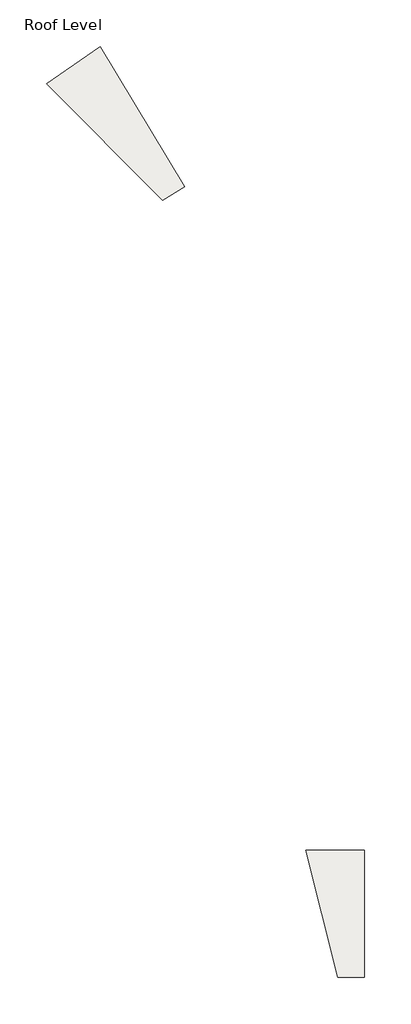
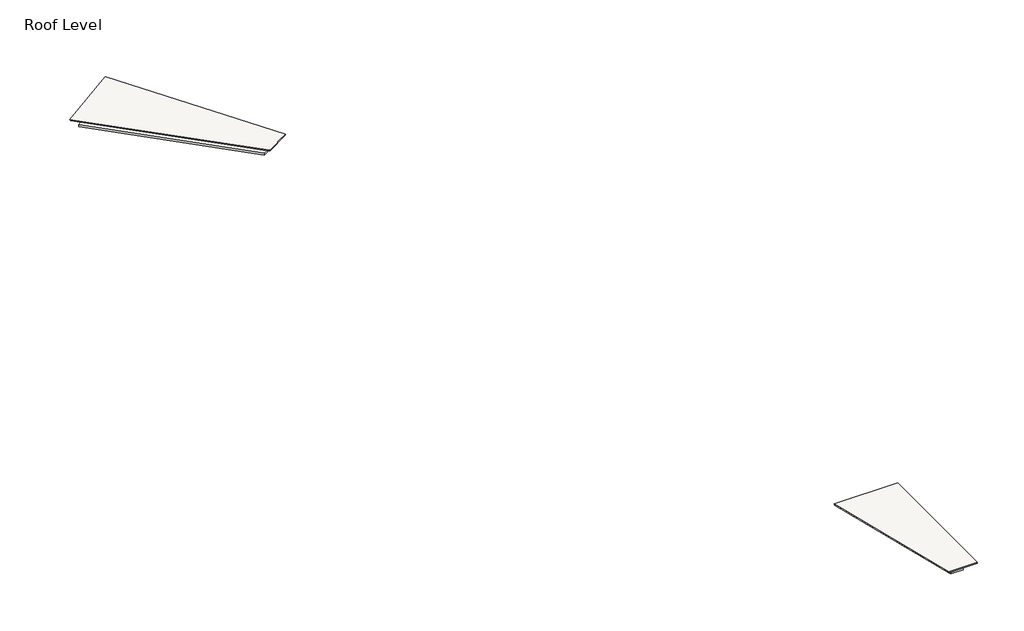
# One storey, incomplete: 2 coverings, 2 light fixtures, 2 roofs.
"""IFC4 building model written with IfcOpenShell, lengths in millimetres."""

from ifc_helpers import new_model, si_unit, point, frame, frame_2d, origin, place, context, project, spatial, polyline, circle_curve, trimmed, segment, composite_curve, outline, extrude, faceted_brep, transform, mapped, element, save
from components import m_downlight_recessed_can_152mm_incandescent_120v_aa052045

model = new_model("IFC4")

# Units and contexts
model_context = context("Model", 3, world=origin())
ifc_project = project(units=[si_unit("LENGTHUNIT", "METRE", prefix="MILLI")], contexts=[model_context])

# Site, building, storey
site = spatial("IfcSite", under=ifc_project)
building = spatial("IfcBuilding", under=site)
storey = spatial("IfcBuildingStorey", under=building, Name="Roof Level", Elevation=10500.0)

# Coverings
placement = place(None, origin())
element("IfcCovering", 1, ObjectType="Plain", at=placement, inside=storey, context=model_context, shape_type="SweptSolid", body=[
    extrude(outline(polyline([(-1577.9416851, 9853.3394684), (-3423.4636696, 11698.8614528), (-2738.9745485, 12171.3453418), (-1407.6552201, 9955.6578992), (-1577.9416851, 9853.3394684)]), holes=[composite_curve([segment(trimmed(circle_curve(frame_2d((-2459.4464576, 11112.4831296)), 75.0), [point((-2534.4464576, 11112.4831296))], [point((-2384.4464576, 11112.4831296))], True, "CARTESIAN"), True, "CONTINUOUS"), segment(trimmed(circle_curve(frame_2d((-2459.4464576, 11112.4831296)), 75.0), [point((-2384.4464576, 11112.4831296))], [point((-2534.4464576, 11112.4831296))], True, "CARTESIAN"), True, "CONTINUOUS")], self_intersect=False)]), frame((0.0, 0.0, 9160.0), z_axis=(0.0, 0.0, 1.0), x_axis=(1.0, 0.0, 0.0)), (0.0, 0.0, 1.0), 30.0),
])
element("IfcCovering", 2, ObjectType="Plain", at=placement, inside=storey, context=model_context, shape_type="SweptSolid", body=[
    extrude(outline(polyline([(1514.163403, -3469.4389803), (1023.1019357, -1499.8990101), (1712.8252801, -1499.8990101), (1712.8252801, -3469.4389803), (1514.163403, -3469.4389803)]), holes=[composite_curve([segment(trimmed(circle_curve(frame_2d((1510.6584713, -2370.399005)), 75.0), [point((1435.6584713, -2370.399005))], [point((1585.6584713, -2370.399005))], True, "CARTESIAN"), True, "CONTINUOUS"), segment(trimmed(circle_curve(frame_2d((1510.6584713, -2370.399005)), 75.0), [point((1585.6584713, -2370.399005))], [point((1435.6584713, -2370.399005))], True, "CARTESIAN"), True, "CONTINUOUS")], self_intersect=False)]), frame((0.0, 0.0, 9195.0), z_axis=(0.0, 0.0, 1.0), x_axis=(1.0, 0.0, 0.0)), (0.0, 0.0, 1.0), 30.0),
])

# Light fixtures
m_downlight_recessed_can_152mm_incandescent_120v_shape = m_downlight_recessed_can_152mm_incandescent_120v_aa052045(model_context)
element("IfcLightFixture", 3, ObjectType="M_Downlight - Recessed Can : 152mm Incandescent - 120V", at=placement, inside=storey, context=model_context, shape_type="MappedRepresentation", body=[
    mapped(m_downlight_recessed_can_152mm_incandescent_120v_shape, transform((-2459.4464576, 11112.4831296, 6645.4), x_axis=(1.0, 0.0, 0.0), y_axis=(0.0, 1.0, 0.0), z_axis=(0.0, 0.0, 1.0))),
])
element("IfcLightFixture", 4, ObjectType="M_Downlight - Recessed Can : 152mm Incandescent - 120V", at=placement, inside=storey, context=model_context, shape_type="MappedRepresentation", body=[
    mapped(m_downlight_recessed_can_152mm_incandescent_120v_shape, transform((1510.6584713, -2370.399005, 6680.4), x_axis=(1.0, 0.0, 0.0), y_axis=(0.0, 1.0, 0.0), z_axis=(0.0, 0.0, 1.0))),
])

# Roofs
element("IfcRoof", 5, ObjectType="Roof_Pitched-50SS-220Ins-20MPan-225Purl", at=placement, inside=storey, context=model_context, shape_type="Brep", body=[
    faceted_brep([(1856.7293504, -1440.3456679, 9334.2540131), (1856.7293504, -3605.3325255, 9334.2540131), (1404.5663049, -3605.3325255, 9334.2540131), (864.7744555, -1440.3456679, 9334.2540131), (1856.7293504, -3605.3325255, 9349.2540131), (1856.7293504, -1432.3511924, 9349.2540131), (862.7812089, -1432.3511924, 9349.2540131), (1404.5663049, -3605.3325255, 9349.2540131)], [[[0, 1, 2, 3]], [[4, 5, 6, 7]], [[5, 4, 1, 0]], [[7, 6, 3, 2]], [[4, 7, 2, 1]], [[6, 5, 0, 3]]]),
])
element("IfcRoof", 6, ObjectType="Roof_Pitched-50SS-220Ins-20MPan-225Purl", at=placement, inside=storey, context=model_context, shape_type="Brep", body=[
    faceted_brep([(-2652.8165495, 12296.7355975, 9334.2540131), (-1215.970899, 9905.4228621, 9334.2540131), (-1590.540873, 9680.3585157, 9334.2540131), (-3572.2550289, 11662.0726715, 9334.2540131), (-1215.970899, 9905.4228621, 9349.2540131), (-2657.8944954, 12305.1867188, 9349.2540131), (-3579.328615, 11669.1462577, 9349.2540131), (-1590.540873, 9680.3585157, 9349.2540131)], [[[0, 1, 2, 3]], [[4, 5, 6, 7]], [[5, 4, 1, 0]], [[7, 6, 3, 2]], [[4, 7, 2, 1]], [[6, 5, 0, 3]]]),
])

save(model, "model.ifc")
